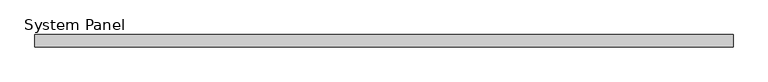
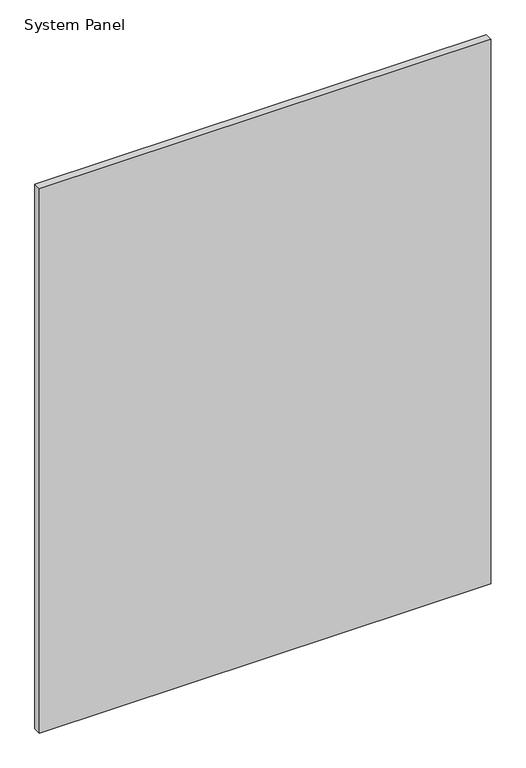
"""IFC4 building model written with IfcOpenShell, lengths in millimetres: plate geometry, System Panel : Panel_Glazed_Generic Showcase_30mm."""

from ifc_helpers import new_model, si_unit, origin, origin_with_axes, place, context, project, spatial, polyline, outline, extrude, source, transform, mapped, element, save


def system_panel_117f5864(model_context):
    return source(origin(), model_context, "Body", "SweptSolid", [
        extrude(outline(polyline([(862.5, -30.0), (-862.5, -30.0), (-862.5, 0.0), (862.5, 0.0), (862.5, -30.0)])), origin_with_axes(), (0.0, 0.0, 1.0), 2200.0),
    ])


if __name__ == "__main__":
    model = new_model("IFC4")
    model_context = context("Model", 3, world=origin())
    ifc_project = project(units=[si_unit("LENGTHUNIT", "METRE", prefix="MILLI")], contexts=[model_context])
    site = spatial("IfcSite", under=ifc_project)
    building = spatial("IfcBuilding", under=site)
    placement = place(None, origin())
    system_panel_shape = system_panel_117f5864(model_context)
    element("IfcPlate", 1, ObjectType="System Panel : Panel_Glazed_Generic Showcase_30mm", at=placement, inside=building, context=model_context, shape_type="MappedRepresentation", body=[
        mapped(system_panel_shape, transform((0.0, 0.0, 0.0), x_axis=(1.0, 0.0, 0.0), y_axis=(0.0, 1.0, 0.0), z_axis=(0.0, 0.0, 1.0))),
    ])
    save(model, "model.ifc")
